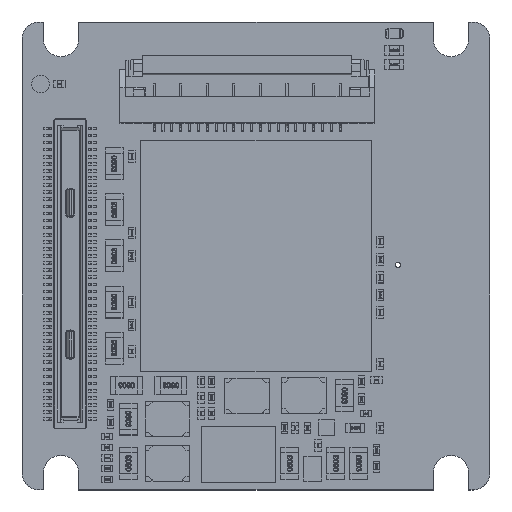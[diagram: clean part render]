
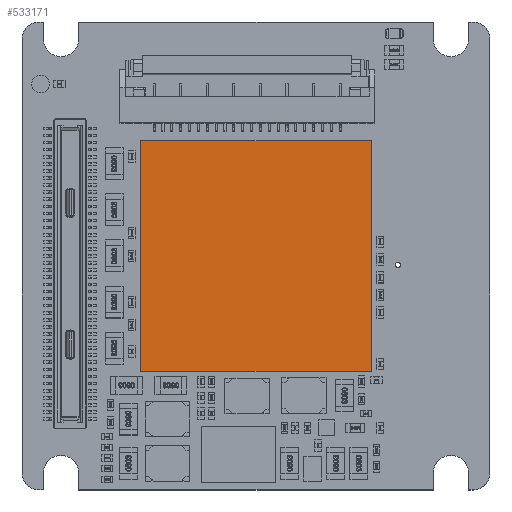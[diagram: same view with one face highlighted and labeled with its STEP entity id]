
A CAD part, top view. The second image highlights one B-rep face of the part: STEP entity #533171.
In plain terms, the highlighted planar face has unit normal (0, 0, 1).
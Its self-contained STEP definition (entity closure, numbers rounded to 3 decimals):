
#47029 = DIRECTION ( 'NONE',  ( -1., 0., 0. ) ) ;
#68562 = CARTESIAN_POINT ( 'NONE',  ( -6.5, -6.5, 6.167 ) ) ;
#68621 = FACE_OUTER_BOUND ( 'NONE', #473432, .T. ) ;
#95993 = VERTEX_POINT ( 'NONE', #538936 ) ;
#113565 = VECTOR ( 'NONE', #47029, 1000. ) ;
#121603 = DIRECTION ( 'NONE',  ( 0., -1., 0. ) ) ;
#151200 = LINE ( 'NONE', #536024, #212811 ) ;
#209582 = VECTOR ( 'NONE', #514418, 1000. ) ;
#212811 = VECTOR ( 'NONE', #478563, 1000. ) ;
#244540 = LINE ( 'NONE', #68562, #209582 ) ;
#247087 = EDGE_CURVE ( 'NONE', #553876, #667731, #244540, .T. ) ;
#248834 = ORIENTED_EDGE ( 'NONE', *, *, #269984, .F. ) ;
#269984 = EDGE_CURVE ( 'NONE', #335095, #95993, #556744, .T. ) ;
#291553 = PLANE ( 'NONE',  #352634 ) ;
#303002 = EDGE_CURVE ( 'NONE', #667731, #335095, #151200, .T. ) ;
#305768 = DIRECTION ( 'NONE',  ( 0., 0., -1. ) ) ;
#320530 = LINE ( 'NONE', #590014, #113565 ) ;
#335095 = VERTEX_POINT ( 'NONE', #543101 ) ;
#352634 = AXIS2_PLACEMENT_3D ( 'NONE', #632709, #305768, #517992 ) ;
#376278 = ORIENTED_EDGE ( 'NONE', *, *, #303002, .F. ) ;
#417459 = EDGE_CURVE ( 'NONE', #95993, #553876, #320530, .T. ) ;
#430998 = VECTOR ( 'NONE', #121603, 1000. ) ;
#455188 = CARTESIAN_POINT ( 'NONE',  ( -6.5, -6.5, 6.167 ) ) ;
#463104 = ORIENTED_EDGE ( 'NONE', *, *, #417459, .F. ) ;
#473432 = EDGE_LOOP ( 'NONE', ( #463104, #248834, #376278, #710862 ) ) ;
#478563 = DIRECTION ( 'NONE',  ( 1., 0., 0. ) ) ;
#514418 = DIRECTION ( 'NONE',  ( 0., 1., 0. ) ) ;
#517992 = DIRECTION ( 'NONE',  ( 0., -1., 0. ) ) ;
#533171 = ADVANCED_FACE ( 'NONE', ( #68621 ), #291553, .F. ) ;
#536024 = CARTESIAN_POINT ( 'NONE',  ( -6.5, 6.5, 6.167 ) ) ;
#538936 = CARTESIAN_POINT ( 'NONE',  ( 6.5, -6.5, 6.167 ) ) ;
#543101 = CARTESIAN_POINT ( 'NONE',  ( 6.5, 6.5, 6.167 ) ) ;
#553876 = VERTEX_POINT ( 'NONE', #455188 ) ;
#556744 = LINE ( 'NONE', #614207, #430998 ) ;
#590014 = CARTESIAN_POINT ( 'NONE',  ( 6.5, -6.5, 6.167 ) ) ;
#614207 = CARTESIAN_POINT ( 'NONE',  ( 6.5, 6.5, 6.167 ) ) ;
#632709 = CARTESIAN_POINT ( 'NONE',  ( 0., 0., 6.167 ) ) ;
#667731 = VERTEX_POINT ( 'NONE', #688177 ) ;
#688177 = CARTESIAN_POINT ( 'NONE',  ( -6.5, 6.5, 6.167 ) ) ;
#710862 = ORIENTED_EDGE ( 'NONE', *, *, #247087, .F. ) ;
